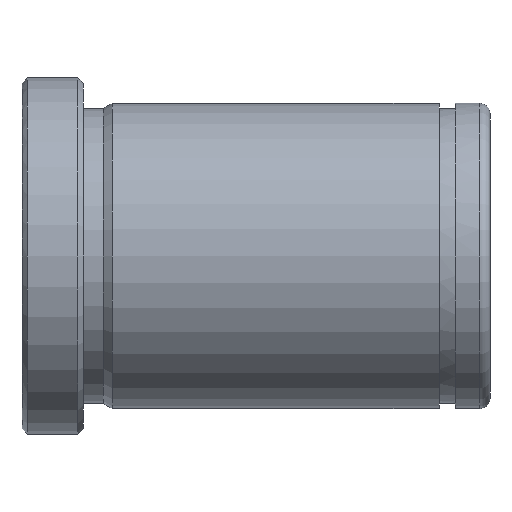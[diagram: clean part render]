
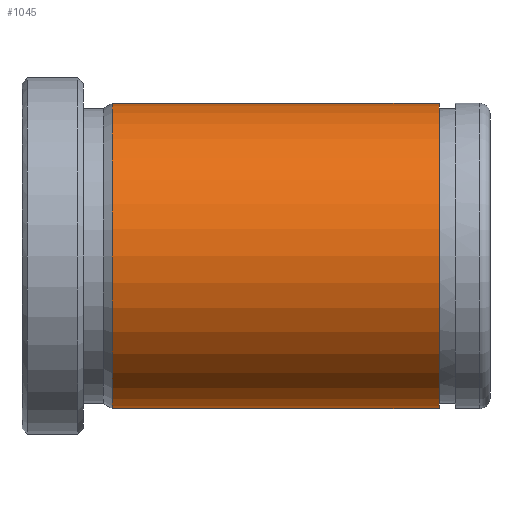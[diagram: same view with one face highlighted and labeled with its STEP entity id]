
A CAD part, front view. The second image highlights one B-rep face of the part: STEP entity #1045.
In plain terms, the highlighted cylindrical face has radius 15 mm (diameter 30 mm), a partial arc.
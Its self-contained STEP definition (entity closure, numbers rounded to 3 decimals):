
#851=CARTESIAN_POINT('Vertex',(8.866,0.,-15.)) ;
#858=CARTESIAN_POINT('Vertex',(8.866,0.,15.)) ;
#887=CARTESIAN_POINT('Axis2P3D Location',(8.866,0.,0.)) ;
#891=CARTESIAN_POINT('Vertex',(8.866,-15.,0.)) ;
#894=CARTESIAN_POINT('Axis2P3D Location',(8.866,0.,0.)) ;
#985=CARTESIAN_POINT('Line Origine',(92.,0.,15.)) ;
#989=CARTESIAN_POINT('Vertex',(41.,0.,15.)) ;
#1003=CARTESIAN_POINT('Vertex',(41.,0.,-15.)) ;
#1006=CARTESIAN_POINT('Line Origine',(92.,0.,-15.)) ;
#1020=CARTESIAN_POINT('Axis2P3D Location',(92.,0.,0.)) ;
#1025=CARTESIAN_POINT('Axis2P3D Location',(41.,0.,0.)) ;
#1029=CARTESIAN_POINT('Vertex',(41.,-15.,0.)) ;
#1032=CARTESIAN_POINT('Axis2P3D Location',(41.,0.,0.)) ;
#888=DIRECTION('Axis2P3D Direction',(1.,0.,-0.)) ;
#895=DIRECTION('Axis2P3D Direction',(1.,0.,-0.)) ;
#986=DIRECTION('Vector Direction',(-1.,0.,0.)) ;
#1007=DIRECTION('Vector Direction',(-1.,0.,0.)) ;
#1021=DIRECTION('Axis2P3D Direction',(-1.,-0.,-0.)) ;
#1022=DIRECTION('Axis2P3D XDirection',(0.,0.,-1.)) ;
#1026=DIRECTION('Axis2P3D Direction',(-1.,-0.,-0.)) ;
#1033=DIRECTION('Axis2P3D Direction',(-1.,-0.,-0.)) ;
#889=AXIS2_PLACEMENT_3D('Circle Axis2P3D',#887,#888,$) ;
#896=AXIS2_PLACEMENT_3D('Circle Axis2P3D',#894,#895,$) ;
#1023=AXIS2_PLACEMENT_3D('Cylinder Axis2P3D',#1020,#1021,#1022) ;
#1027=AXIS2_PLACEMENT_3D('Circle Axis2P3D',#1025,#1026,$) ;
#1034=AXIS2_PLACEMENT_3D('Circle Axis2P3D',#1032,#1033,$) ;
#1038=ORIENTED_EDGE('',*,*,#1010,.T.) ;
#1039=ORIENTED_EDGE('',*,*,#1031,.F.) ;
#1040=ORIENTED_EDGE('',*,*,#1036,.F.) ;
#1041=ORIENTED_EDGE('',*,*,#991,.T.) ;
#1042=ORIENTED_EDGE('',*,*,#898,.T.) ;
#1043=ORIENTED_EDGE('',*,*,#893,.T.) ;
#987=VECTOR('Line Direction',#986,1.) ;
#1008=VECTOR('Line Direction',#1007,1.) ;
#1045=ADVANCED_FACE('553-22X46',(#1044),#1024,.T.) ;
#890=CIRCLE('generated circle',#889,15.) ;
#897=CIRCLE('generated circle',#896,15.) ;
#1028=CIRCLE('generated circle',#1027,15.) ;
#1035=CIRCLE('generated circle',#1034,15.) ;
#1024=CYLINDRICAL_SURFACE('generated cylinder',#1023,15.) ;
#893=EDGE_CURVE('',#892,#852,#890,.T.) ;
#898=EDGE_CURVE('',#859,#892,#897,.T.) ;
#991=EDGE_CURVE('',#990,#859,#988,.T.) ;
#1010=EDGE_CURVE('',#852,#1004,#1009,.F.) ;
#1031=EDGE_CURVE('',#1030,#1004,#1028,.F.) ;
#1036=EDGE_CURVE('',#990,#1030,#1035,.F.) ;
#1037=EDGE_LOOP('',(#1038,#1039,#1040,#1041,#1042,#1043)) ;
#1044=FACE_OUTER_BOUND('',#1037,.T.) ;
#988=LINE('Line',#985,#987) ;
#1009=LINE('Line',#1006,#1008) ;
#852=VERTEX_POINT('',#851) ;
#859=VERTEX_POINT('',#858) ;
#892=VERTEX_POINT('',#891) ;
#990=VERTEX_POINT('',#989) ;
#1004=VERTEX_POINT('',#1003) ;
#1030=VERTEX_POINT('',#1029) ;
